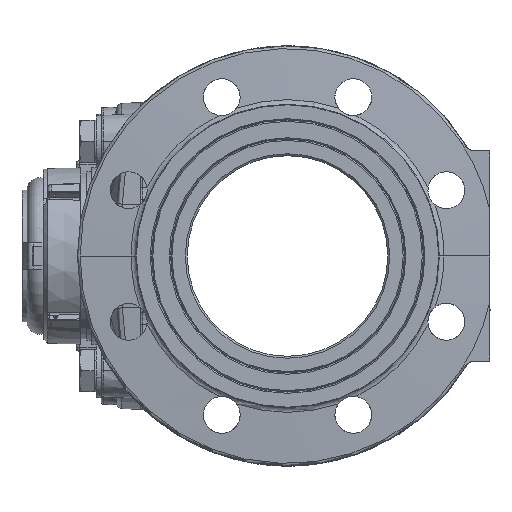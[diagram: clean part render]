
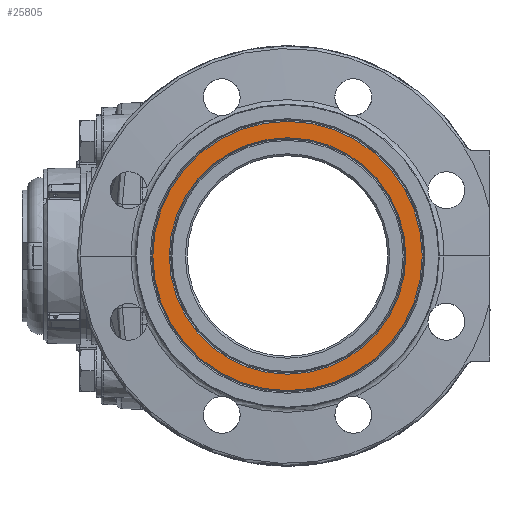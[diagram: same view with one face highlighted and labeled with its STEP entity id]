
A CAD part, left-side view. The second image highlights one B-rep face of the part: STEP entity #25805.
In plain terms, the highlighted planar face has unit normal (-1, 0, 0) as drawn and (1, 0, 0) by its records, which use the part's own axes.
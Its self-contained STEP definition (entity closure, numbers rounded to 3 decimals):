
#18891 = VERTEX_POINT ( 'NONE', #36102 ) ;
#20177 = VERTEX_POINT ( 'NONE', #43586 ) ;
#20404 = VERTEX_POINT ( 'NONE', #44132 ) ;
#20433 = VERTEX_POINT ( 'NONE', #44161 ) ;
#24720 = EDGE_CURVE ( 'NONE', #20404, #20177, #43449, .T. ) ;
#24727 = EDGE_CURVE ( 'NONE', #20433, #18891, #43005, .T. ) ;
#25540 = EDGE_CURVE ( 'NONE', #20177, #20404, #50070, .T. ) ;
#25805 = ADVANCED_FACE ( 'NONE', ( #57271, #57272 ), #63558, .T. ) ;
#25838 = EDGE_CURVE ( 'NONE', #18891, #20433, #51188, .T. ) ;
#26487 = ORIENTED_EDGE ( 'NONE', *, *, #24727, .T. ) ;
#26489 = ORIENTED_EDGE ( 'NONE', *, *, #25838, .T. ) ;
#26491 = ORIENTED_EDGE ( 'NONE', *, *, #25540, .F. ) ;
#26493 = ORIENTED_EDGE ( 'NONE', *, *, #24720, .F. ) ;
#31142 = EDGE_LOOP ( 'NONE', ( #26487, #26489 ) ) ;
#31143 = EDGE_LOOP ( 'NONE', ( #26493, #26491 ) ) ;
#36102 = CARTESIAN_POINT ( 'NONE',  ( 252., 0., 61.893 ) ) ;
#43003 = AXIS2_PLACEMENT_3D ( 'NONE', #44697, #44698, #44699 ) ;
#43005 = CIRCLE ( 'NONE', #43007, 61.893 ) ;
#43007 = AXIS2_PLACEMENT_3D ( 'NONE', #44704, #44705, #44706 ) ;
#43449 = CIRCLE ( 'NONE', #43003, 70.507 ) ;
#43586 = CARTESIAN_POINT ( 'NONE',  ( 252., 0., -70.507 ) ) ;
#44132 = CARTESIAN_POINT ( 'NONE',  ( 252., 0., 70.507 ) ) ;
#44161 = CARTESIAN_POINT ( 'NONE',  ( 252., 0., -61.893 ) ) ;
#44697 = CARTESIAN_POINT ( 'NONE',  ( 252., 0., 0. ) ) ;
#44698 = DIRECTION ( 'NONE',  ( -1., 0., 0. ) ) ;
#44699 = DIRECTION ( 'NONE',  ( 0., 0., 1. ) ) ;
#44704 = CARTESIAN_POINT ( 'NONE',  ( 252., 0., 0. ) ) ;
#44705 = DIRECTION ( 'NONE',  ( -1., 0., 0. ) ) ;
#44706 = DIRECTION ( 'NONE',  ( 0., 0., 1. ) ) ;
#50070 = CIRCLE ( 'NONE', #50084, 70.507 ) ;
#50084 = AXIS2_PLACEMENT_3D ( 'NONE', #57508, #57509, #57510 ) ;
#50611 = AXIS2_PLACEMENT_3D ( 'NONE', #63559, #63560, #63561 ) ;
#51188 = CIRCLE ( 'NONE', #51189, 61.893 ) ;
#51189 = AXIS2_PLACEMENT_3D ( 'NONE', #63633, #63634, #63635 ) ;
#57271 = FACE_BOUND ( 'NONE', #31142, .T. ) ;
#57272 = FACE_OUTER_BOUND ( 'NONE', #31143, .T. ) ;
#57508 = CARTESIAN_POINT ( 'NONE',  ( 252., 0., 0. ) ) ;
#57509 = DIRECTION ( 'NONE',  ( -1., 0., 0. ) ) ;
#57510 = DIRECTION ( 'NONE',  ( 0., 0., 1. ) ) ;
#63558 = PLANE ( 'NONE',  #50611 ) ;
#63559 = CARTESIAN_POINT ( 'NONE',  ( 252., 61.893, 0. ) ) ;
#63560 = DIRECTION ( 'NONE',  ( 1., 0., 0. ) ) ;
#63561 = DIRECTION ( 'NONE',  ( 0., 0., -1. ) ) ;
#63633 = CARTESIAN_POINT ( 'NONE',  ( 252., 0., 0. ) ) ;
#63634 = DIRECTION ( 'NONE',  ( -1., 0., 0. ) ) ;
#63635 = DIRECTION ( 'NONE',  ( 0., 0., 1. ) ) ;
